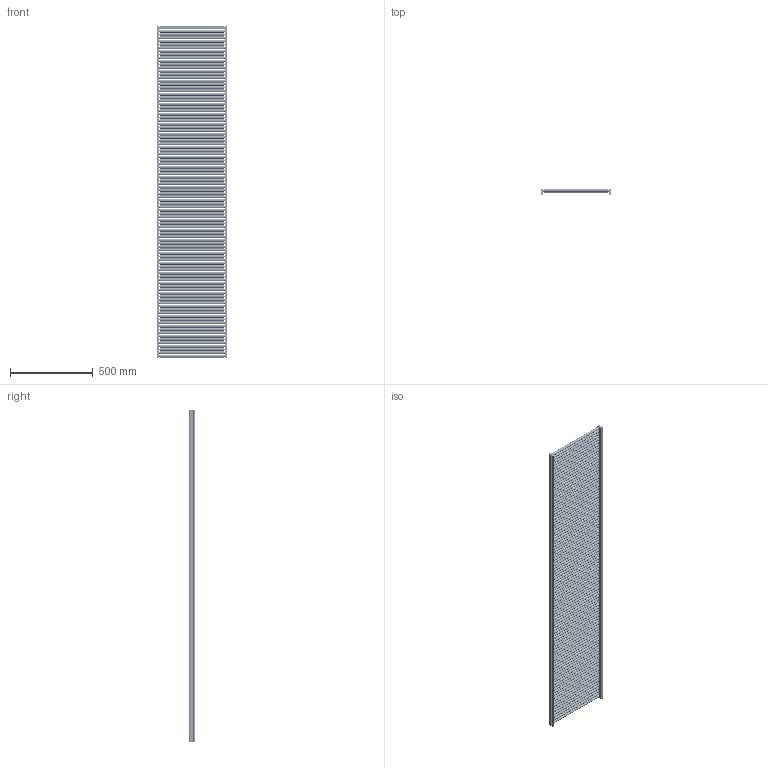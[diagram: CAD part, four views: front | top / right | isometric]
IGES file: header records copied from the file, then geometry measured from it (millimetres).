
Start section: SolidWorks IGES file using analytic representation for surfaces
Global section: file name: C:\Users\0656\Desktop\変換ツール\iges変換\SA-1810.igs; native system: SolidWorks 2023; preprocessor: SolidWorks 2023; author: 0656; date: 240226.153056; units: millimetre
Bounding box: 426 x 34 x 2004 mm (x, y, z)
Surface area: 4030259.2 mm2 (no closed solid volume)
Topology: 0 solids, 0 shells, 2784 faces, 43084 edges, 43084 vertices
Faces by surface type: revolution 1452, bspline 1332
